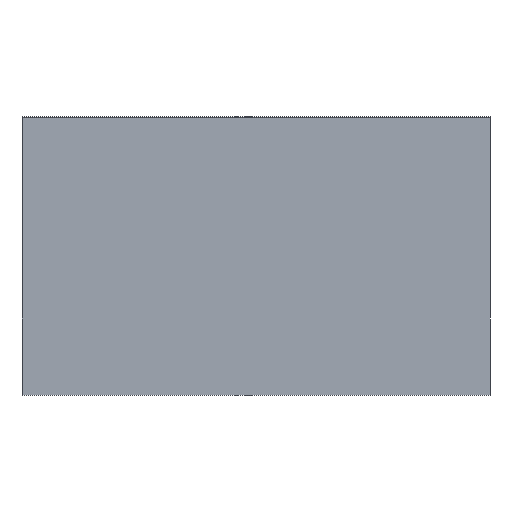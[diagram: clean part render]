
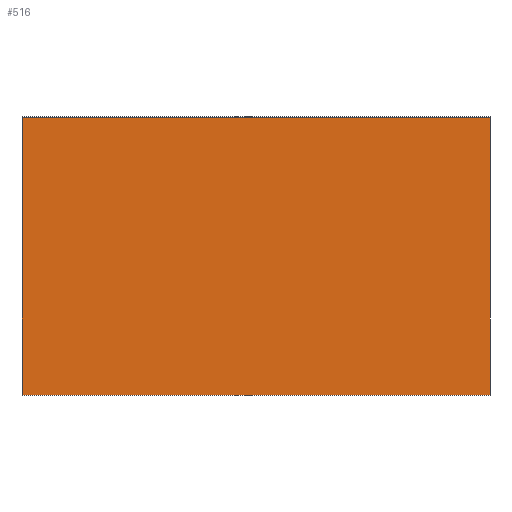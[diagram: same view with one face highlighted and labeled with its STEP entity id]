
A CAD part, front view. The second image highlights one B-rep face of the part: STEP entity #516.
In plain terms, the highlighted planar face has unit normal (0, -1, 0).
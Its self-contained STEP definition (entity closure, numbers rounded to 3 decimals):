
#224=DIRECTION('',(0.,0.,1.));
#225=VECTOR('',#224,423.7);
#226=CARTESIAN_POINT('',(-357.5,-0.8,-425.));
#227=LINE('',#226,#225);
#284=DIRECTION('',(0.,0.,1.));
#285=VECTOR('',#284,423.7);
#286=CARTESIAN_POINT('',(357.5,-0.8,-425.));
#287=LINE('',#286,#285);
#292=DIRECTION('',(-1.,0.,0.));
#293=VECTOR('',#292,715.);
#294=CARTESIAN_POINT('',(357.5,-0.8,-1.3));
#295=LINE('',#294,#293);
#296=DIRECTION('',(1.,0.,0.));
#297=VECTOR('',#296,715.);
#298=CARTESIAN_POINT('',(-357.5,-0.8,-425.));
#299=LINE('',#298,#297);
#322=CARTESIAN_POINT('',(-357.5,-0.8,-425.));
#323=CARTESIAN_POINT('',(357.5,-0.8,-425.));
#324=VERTEX_POINT('',#322);
#325=VERTEX_POINT('',#323);
#338=CARTESIAN_POINT('',(357.5,-0.8,-1.3));
#339=CARTESIAN_POINT('',(-357.5,-0.8,-1.3));
#340=VERTEX_POINT('',#338);
#341=VERTEX_POINT('',#339);
#504=CARTESIAN_POINT('',(-357.5,-0.8,-425.));
#505=DIRECTION('',(0.,1.,0.));
#506=DIRECTION('',(0.,0.,1.));
#507=AXIS2_PLACEMENT_3D('',#504,#505,#506);
#508=PLANE('',#507);
#510=ORIENTED_EDGE('',*,*,#509,.F.);
#511=ORIENTED_EDGE('',*,*,#486,.F.);
#512=ORIENTED_EDGE('',*,*,#498,.F.);
#513=ORIENTED_EDGE('',*,*,#399,.T.);
#514=EDGE_LOOP('',(#510,#511,#512,#513));
#515=FACE_OUTER_BOUND('',#514,.F.);
#399=EDGE_CURVE('',#324,#341,#227,.T.);
#486=EDGE_CURVE('',#325,#340,#287,.T.);
#498=EDGE_CURVE('',#324,#325,#299,.T.);
#509=EDGE_CURVE('',#340,#341,#295,.T.);
#516=ADVANCED_FACE('',(#515),#508,.F.);
